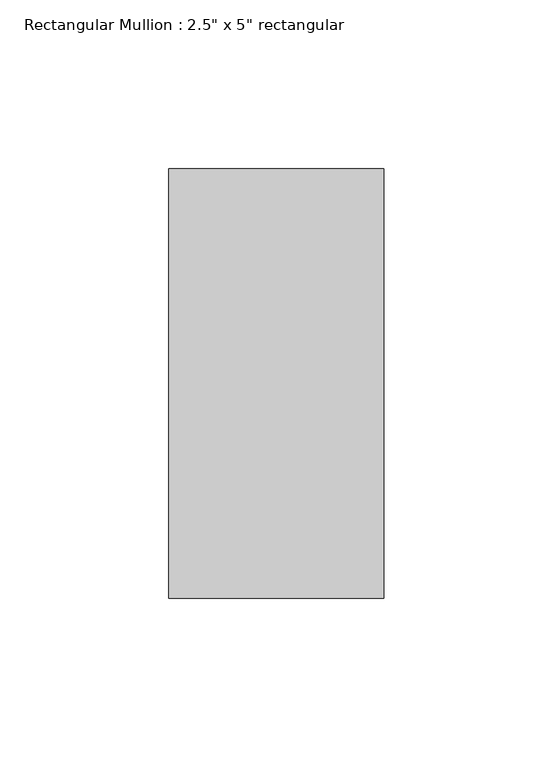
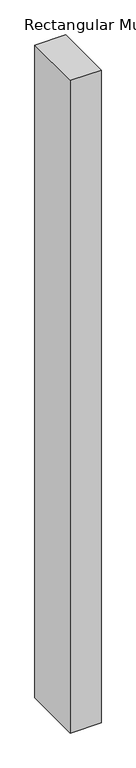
"""IFC4 building model written with IfcOpenShell, lengths in millimetres: member geometry."""

from ifc_helpers import new_model, si_unit, frame, origin, place, context, project, spatial, polyline, outline, extrude, source, transform, mapped, element, save


def member_26d67f61(model_context):
    return source(origin(), model_context, "Body", "SweptSolid", [
        extrude(outline(polyline([(0.0, 63.5), (0.0, -63.5), (-63.5, -63.5), (-63.5, 63.5), (0.0, 63.5)])), frame((0.0, 0.0, -1428.75), z_axis=(0.0, 0.0, 1.0), x_axis=(1.0, 0.0, 0.0)), (0.0, 0.0, 1.0), 1428.75),
    ])


if __name__ == "__main__":
    model = new_model("IFC4")
    model_context = context("Model", 3, world=origin())
    ifc_project = project(units=[si_unit("LENGTHUNIT", "METRE", prefix="MILLI")], contexts=[model_context])
    site = spatial("IfcSite", under=ifc_project)
    building = spatial("IfcBuilding", under=site)
    placement = place(None, origin())
    member_shape = member_26d67f61(model_context)
    element("IfcMember", 1, ObjectType="Rectangular Mullion : 2.5\" x 5\" rectangular", at=placement, inside=building, context=model_context, shape_type="MappedRepresentation", body=[
        mapped(member_shape, transform((0.0, 0.0, 0.0), x_axis=(1.0, 0.0, 0.0), y_axis=(0.0, 1.0, 0.0), z_axis=(0.0, 0.0, 1.0))),
    ])
    save(model, "model.ifc")
